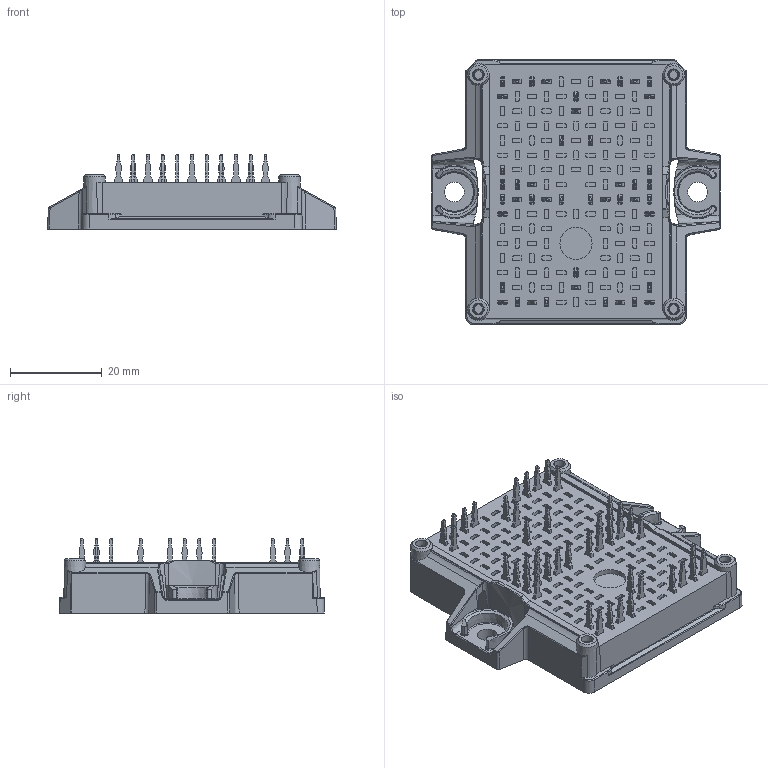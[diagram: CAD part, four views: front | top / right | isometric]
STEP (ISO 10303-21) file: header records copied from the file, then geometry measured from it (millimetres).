
FILE_DESCRIPTION(/* description */ ('Unknown'),/* implementation_level */ '2;1');
FILE_NAME(/* name */ 'FlowE2-4T12T-PT40(460)-01-OL',/* time_stamp */ '2026-09-18T10:36:20+02:00',/* author */ ('Unknown'),/* organization */ ('Unknown'),/* preprocessor_version */ 'ST-DEVELOPER v20',/* originating_system */ 'Solid Edge',/* authorisation */ 'Unknown');
FILE_SCHEMA (('AUTOMOTIVE_DESIGN {1 0 10303 214 3 1 1}'));
Products named in the file (1): FlowE2-4T12T-PT40-OL
Bounding box: 62.8 x 57.68 x 16.43 mm (x, y, z)
Volume: 26381.5 mm3; surface area: 12950.9 mm2
Topology: 1 solids, 1 shells, 4539 faces, 11412 edges, 7089 vertices
Faces by surface type: plane 2357, cylinder 1303, cone 714, bspline 119, torus 28, sphere 18
Full cylindrical faces by diameter (mm): 4.3 x2, 7 x1
Entity records: 167705 total; most frequent: CARTESIAN_POINT 25906, DIRECTION 23422, ORIENTED_EDGE 22720, EDGE_CURVE 11360, AXIS2_PLACEMENT_3D 7927, LINE 7568, VECTOR 7568, VERTEX_POINT 7076
